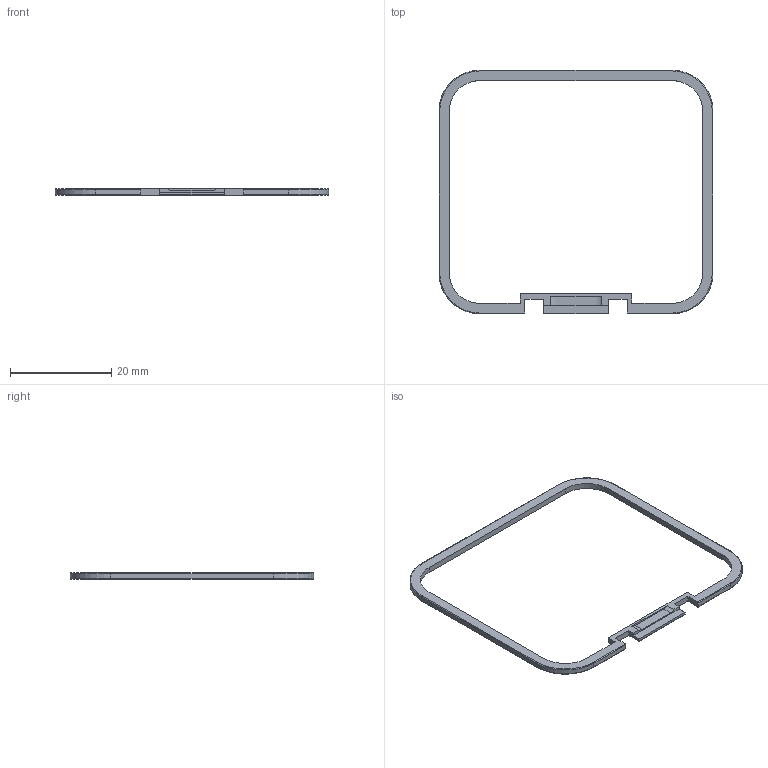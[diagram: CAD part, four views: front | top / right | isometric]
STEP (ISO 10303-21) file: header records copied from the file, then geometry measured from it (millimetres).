
FILE_DESCRIPTION(('Open CASCADE Model'),'2;1');
FILE_NAME('Open CASCADE Shape Model','2026-10-07T16:40:45',('Author'),( 'Open CASCADE'),'Open CASCADE STEP processor 7.9','Open CASCADE 7.9' ,'Unknown');
FILE_SCHEMA(('AUTOMOTIVE_DESIGN { 1 0 10303 214 1 1 1 1 }'));
Length unit declared in the file: millimetre
Products named in the file (1): Open CASCADE STEP translator 7.9 1
Bounding box: 54 x 48 x 1.2 mm (x, y, z)
Volume: 458.4 mm3; surface area: 1231.9 mm2
Topology: 1 solids, 1 shells, 57 faces, 149 edges, 94 vertices
Faces by surface type: plane 26, cylinder 23, torus 8
Entity records: 3636 total; most frequent: CARTESIAN_POINT 789, DIRECTION 497, ORIENTED_EDGE 298, PCURVE 298, DEFINITIONAL_REPRESENTATION 298, LINE 257, VECTOR 257, EDGE_CURVE 149
